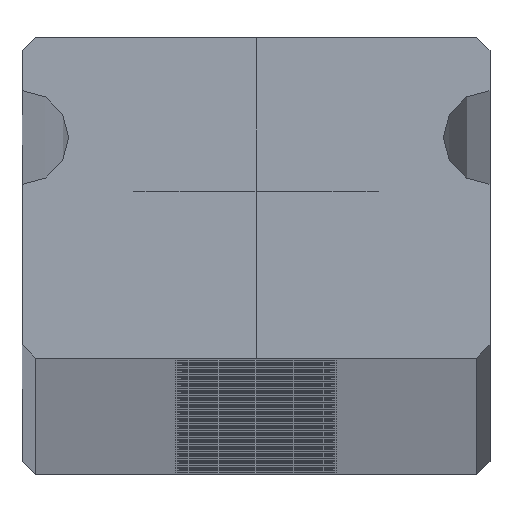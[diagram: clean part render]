
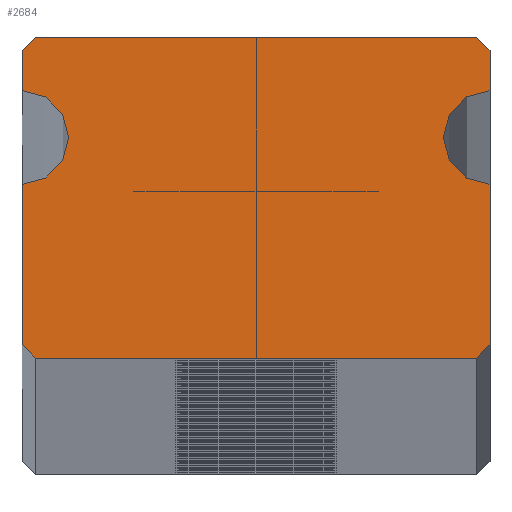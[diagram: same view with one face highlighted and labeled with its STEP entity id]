
A CAD part, top view. The second image highlights one B-rep face of the part: STEP entity #2684.
In plain terms, the highlighted planar face has unit normal (0, 0, 1).
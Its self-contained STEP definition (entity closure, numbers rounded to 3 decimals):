
#30 = VECTOR ( 'NONE', #5583, 1000. ) ;
#186 = CARTESIAN_POINT ( 'NONE',  ( -3.103, 0.411, 1000. ) ) ;
#232 = ORIENTED_EDGE ( 'NONE', *, *, #6751, .T. ) ;
#454 = LINE ( 'NONE', #1454, #30 ) ;
#849 = EDGE_CURVE ( 'NONE', #943, #3146, #10761, .T. ) ;
#943 = VERTEX_POINT ( 'NONE', #9333 ) ;
#1014 = ORIENTED_EDGE ( 'NONE', *, *, #7355, .T. ) ;
#1059 = VECTOR ( 'NONE', #10347, 1000. ) ;
#1121 = DIRECTION ( 'NONE',  ( 0., 1., 0. ) ) ;
#1201 = LINE ( 'NONE', #4359, #9332 ) ;
#1346 = VERTEX_POINT ( 'NONE', #4030 ) ;
#1364 = CARTESIAN_POINT ( 'NONE',  ( 3.697, 2.611, 1000. ) ) ;
#1382 = DIRECTION ( 'NONE',  ( 0.707, 0.707, 0. ) ) ;
#1454 = CARTESIAN_POINT ( 'NONE',  ( -2.903, -2.189, 1000. ) ) ;
#1476 = ORIENTED_EDGE ( 'NONE', *, *, #6890, .T. ) ;
#1534 = CARTESIAN_POINT ( 'NONE',  ( 3.197, 1.111, 1000. ) ) ;
#1769 = CARTESIAN_POINT ( 'NONE',  ( -3.103, -1.989, 1000. ) ) ;
#1787 = CIRCLE ( 'NONE', #3342, 0.7 ) ;
#1846 = ORIENTED_EDGE ( 'NONE', *, *, #3615, .T. ) ;
#1882 = ORIENTED_EDGE ( 'NONE', *, *, #4394, .T. ) ;
#2105 = VERTEX_POINT ( 'NONE', #6935 ) ;
#2110 = ORIENTED_EDGE ( 'NONE', *, *, #849, .T. ) ;
#2199 = CARTESIAN_POINT ( 'NONE',  ( 3.697, -2.189, 1000. ) ) ;
#2446 = VECTOR ( 'NONE', #10018, 1000. ) ;
#2454 = CARTESIAN_POINT ( 'NONE',  ( 3.897, 1.111, 1000. ) ) ;
#2674 = EDGE_CURVE ( 'NONE', #10517, #8782, #7795, .T. ) ;
#2684 = ADVANCED_FACE ( 'NONE', ( #9756 ), #3209, .T. ) ;
#2702 = VERTEX_POINT ( 'NONE', #1534 ) ;
#3090 = AXIS2_PLACEMENT_3D ( 'NONE', #3972, #6478, #10679 ) ;
#3134 = ORIENTED_EDGE ( 'NONE', *, *, #3464, .T. ) ;
#3146 = VERTEX_POINT ( 'NONE', #4083 ) ;
#3183 = VECTOR ( 'NONE', #5793, 1000. ) ;
#3209 = PLANE ( 'NONE',  #6567 ) ;
#3278 = LINE ( 'NONE', #6610, #3183 ) ;
#3331 = DIRECTION ( 'NONE',  ( 0., 1., 0. ) ) ;
#3342 = AXIS2_PLACEMENT_3D ( 'NONE', #2454, #4855, #6555 ) ;
#3348 = VECTOR ( 'NONE', #1382, 1000. ) ;
#3371 = CARTESIAN_POINT ( 'NONE',  ( -3.103, -1.989, 1000. ) ) ;
#3408 = VECTOR ( 'NONE', #7437, 1000. ) ;
#3464 = EDGE_CURVE ( 'NONE', #8782, #10171, #3813, .T. ) ;
#3494 = VERTEX_POINT ( 'NONE', #9885 ) ;
#3604 = VECTOR ( 'NONE', #10461, 1000. ) ;
#3615 = EDGE_CURVE ( 'NONE', #5751, #1346, #6187, .T. ) ;
#3663 = VERTEX_POINT ( 'NONE', #5201 ) ;
#3802 = EDGE_CURVE ( 'NONE', #3494, #5593, #454, .T. ) ;
#3813 = LINE ( 'NONE', #8889, #3604 ) ;
#3972 = CARTESIAN_POINT ( 'NONE',  ( -3.103, 1.111, 1000. ) ) ;
#3989 = CARTESIAN_POINT ( 'NONE',  ( -3.103, 1.811, 1000. ) ) ;
#4030 = CARTESIAN_POINT ( 'NONE',  ( 3.897, 2.411, 1000. ) ) ;
#4036 = CARTESIAN_POINT ( 'NONE',  ( 3.697, -2.189, 1000. ) ) ;
#4083 = CARTESIAN_POINT ( 'NONE',  ( 3.897, 0.411, 1000. ) ) ;
#4089 = CARTESIAN_POINT ( 'NONE',  ( -3.103, 2.411, 1000. ) ) ;
#4179 = LINE ( 'NONE', #3371, #2446 ) ;
#4359 = CARTESIAN_POINT ( 'NONE',  ( -2.903, 2.611, 1000. ) ) ;
#4394 = EDGE_CURVE ( 'NONE', #3146, #2702, #1787, .T. ) ;
#4473 = VECTOR ( 'NONE', #1121, 1000. ) ;
#4561 = EDGE_LOOP ( 'NONE', ( #1882, #6801, #1846, #5035, #1014, #1476, #232, #10212, #3134, #8547, #6697, #7675, #2110 ) ) ;
#4855 = DIRECTION ( 'NONE',  ( 0., 0., -1. ) ) ;
#5035 = ORIENTED_EDGE ( 'NONE', *, *, #10609, .T. ) ;
#5073 = CARTESIAN_POINT ( 'NONE',  ( 3.897, -1.989, 1000. ) ) ;
#5201 = CARTESIAN_POINT ( 'NONE',  ( -3.103, 2.411, 1000. ) ) ;
#5345 = CARTESIAN_POINT ( 'NONE',  ( 3.897, 1.811, 1000. ) ) ;
#5483 = EDGE_CURVE ( 'NONE', #5593, #943, #7276, .T. ) ;
#5495 = VECTOR ( 'NONE', #3331, 1000. ) ;
#5583 = DIRECTION ( 'NONE',  ( 1., 0., 0. ) ) ;
#5593 = VERTEX_POINT ( 'NONE', #4036 ) ;
#5751 = VERTEX_POINT ( 'NONE', #5345 ) ;
#5793 = DIRECTION ( 'NONE',  ( -0.707, 0.707, 0. ) ) ;
#6187 = LINE ( 'NONE', #7013, #4473 ) ;
#6478 = DIRECTION ( 'NONE',  ( 0., 0., -1. ) ) ;
#6555 = DIRECTION ( 'NONE',  ( 1., 0., 0. ) ) ;
#6567 = AXIS2_PLACEMENT_3D ( 'NONE', #10632, #8237, #9048 ) ;
#6610 = CARTESIAN_POINT ( 'NONE',  ( 3.897, 2.411, 1000. ) ) ;
#6697 = ORIENTED_EDGE ( 'NONE', *, *, #3802, .T. ) ;
#6751 = EDGE_CURVE ( 'NONE', #3663, #10517, #9058, .T. ) ;
#6801 = ORIENTED_EDGE ( 'NONE', *, *, #8393, .T. ) ;
#6890 = EDGE_CURVE ( 'NONE', #2105, #3663, #1201, .T. ) ;
#6935 = CARTESIAN_POINT ( 'NONE',  ( -2.903, 2.611, 1000. ) ) ;
#6992 = CIRCLE ( 'NONE', #8378, 0.7 ) ;
#7013 = CARTESIAN_POINT ( 'NONE',  ( 3.897, 1.811, 1000. ) ) ;
#7036 = CARTESIAN_POINT ( 'NONE',  ( 3.897, 1.111, 1000. ) ) ;
#7189 = EDGE_CURVE ( 'NONE', #10171, #3494, #4179, .T. ) ;
#7276 = LINE ( 'NONE', #2199, #3348 ) ;
#7321 = VERTEX_POINT ( 'NONE', #9481 ) ;
#7355 = EDGE_CURVE ( 'NONE', #7321, #2105, #7907, .T. ) ;
#7437 = DIRECTION ( 'NONE',  ( 0., -1., 0. ) ) ;
#7675 = ORIENTED_EDGE ( 'NONE', *, *, #5483, .T. ) ;
#7685 = DIRECTION ( 'NONE',  ( 0., 0., -1. ) ) ;
#7795 = CIRCLE ( 'NONE', #3090, 0.7 ) ;
#7856 = DIRECTION ( 'NONE',  ( -0.707, -0.707, 0. ) ) ;
#7907 = LINE ( 'NONE', #1364, #1059 ) ;
#8237 = DIRECTION ( 'NONE',  ( 0., 0., 1. ) ) ;
#8378 = AXIS2_PLACEMENT_3D ( 'NONE', #7036, #7685, #10343 ) ;
#8393 = EDGE_CURVE ( 'NONE', #2702, #5751, #6992, .T. ) ;
#8547 = ORIENTED_EDGE ( 'NONE', *, *, #7189, .T. ) ;
#8782 = VERTEX_POINT ( 'NONE', #186 ) ;
#8889 = CARTESIAN_POINT ( 'NONE',  ( -3.103, 0.411, 1000. ) ) ;
#9048 = DIRECTION ( 'NONE',  ( 1., 0., 0. ) ) ;
#9058 = LINE ( 'NONE', #4089, #3408 ) ;
#9332 = VECTOR ( 'NONE', #7856, 1000. ) ;
#9333 = CARTESIAN_POINT ( 'NONE',  ( 3.897, -1.989, 1000. ) ) ;
#9481 = CARTESIAN_POINT ( 'NONE',  ( 3.697, 2.611, 1000. ) ) ;
#9756 = FACE_OUTER_BOUND ( 'NONE', #4561, .T. ) ;
#9885 = CARTESIAN_POINT ( 'NONE',  ( -2.903, -2.189, 1000. ) ) ;
#10018 = DIRECTION ( 'NONE',  ( 0.707, -0.707, 0. ) ) ;
#10171 = VERTEX_POINT ( 'NONE', #1769 ) ;
#10212 = ORIENTED_EDGE ( 'NONE', *, *, #2674, .T. ) ;
#10343 = DIRECTION ( 'NONE',  ( 1., 0., 0. ) ) ;
#10347 = DIRECTION ( 'NONE',  ( -1., 0., 0. ) ) ;
#10461 = DIRECTION ( 'NONE',  ( 0., -1., 0. ) ) ;
#10517 = VERTEX_POINT ( 'NONE', #3989 ) ;
#10609 = EDGE_CURVE ( 'NONE', #1346, #7321, #3278, .T. ) ;
#10632 = CARTESIAN_POINT ( 'NONE',  ( 3.897, 1.111, 1000. ) ) ;
#10679 = DIRECTION ( 'NONE',  ( 1., 0., 0. ) ) ;
#10761 = LINE ( 'NONE', #5073, #5495 ) ;
